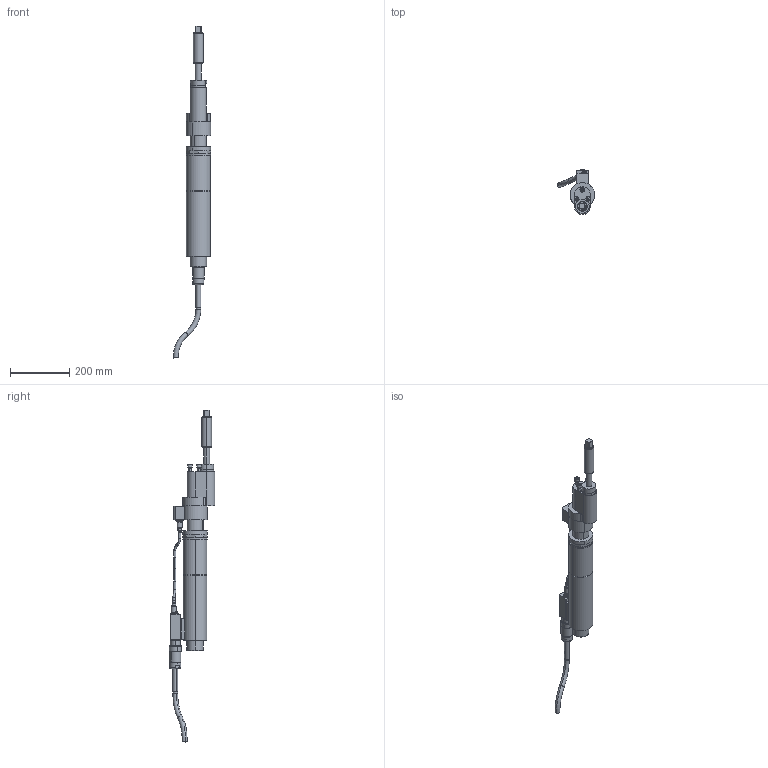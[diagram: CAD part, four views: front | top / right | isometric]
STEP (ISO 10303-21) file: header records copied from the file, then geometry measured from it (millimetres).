
FILE_DESCRIPTION(('CATIA V5 STEP'),'2;1');
FILE_NAME('O:\3D-Schrauber\stp\7920207_ECR334_DWR450_AO350_AllCATPart.stp','2010-05-05T10:57:09+00:00',('none'),('none'),'CATIA Version 5 Release 19 SP 3 (IN-10)','CATIA V5 STEP AP214','none');
FILE_SCHEMA(('AUTOMOTIVE_DESIGN { 1 0 10303 214 1 1 1 1 }'));
Length unit declared in the file: millimetre
Products named in the file (1): 7920207_ECR334_DWR450_AO350_AllCATPart
Bounding box: 124.82 x 152.33 x 1117.16 mm (x, y, z)
Volume: 3478770.3 mm3; surface area: 310700.6 mm2
Topology: 17 solids, 17 shells, 398 faces, 865 edges, 539 vertices
Faces by surface type: plane 160, cylinder 142, cone 60, torus 36
Entity records: 10338 total; most frequent: CARTESIAN_POINT 2022, ORIENTED_EDGE 1718, DIRECTION 1441, EDGE_CURVE 859, AXIS2_PLACEMENT_3D 738, VERTEX_POINT 539, EDGE_LOOP 442, CIRCLE 426
